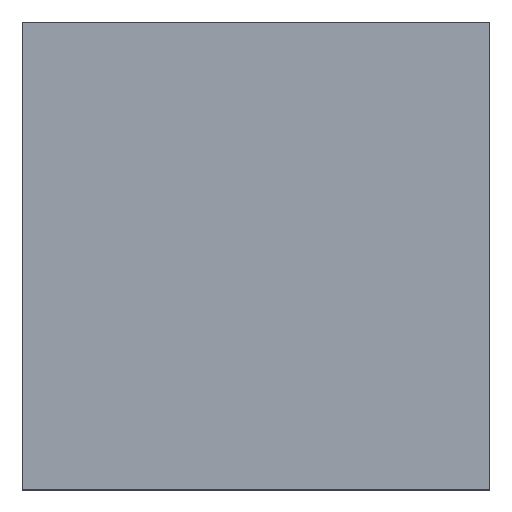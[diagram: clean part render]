
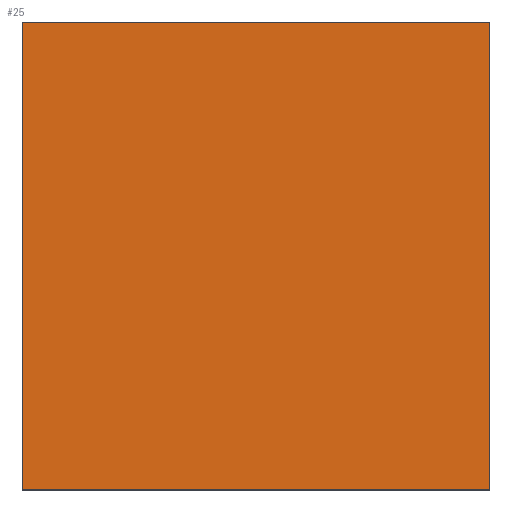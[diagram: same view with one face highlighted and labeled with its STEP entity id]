
A CAD part, top view. The second image highlights one B-rep face of the part: STEP entity #25.
In plain terms, the highlighted planar face has unit normal (0, 0, 1).
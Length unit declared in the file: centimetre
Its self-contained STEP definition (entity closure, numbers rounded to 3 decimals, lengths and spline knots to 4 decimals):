
#4 = CARTESIAN_POINT ( 'NONE',  ( 0., 1000., 1000. ) ) ;
#6 = CARTESIAN_POINT ( 'NONE',  ( 0., 0., 1000. ) ) ;
#13 = CARTESIAN_POINT ( 'NONE',  ( 1000., 1000., 1000. ) ) ;
#17 = LINE ( 'NONE', #13, #346 ) ;
#25 = ADVANCED_FACE ( 'NONE', ( #244 ), #164, .T. ) ;
#28 = VECTOR ( 'NONE', #319, 100. ) ;
#37 = DIRECTION ( 'NONE',  ( 0., 0., 1. ) ) ;
#40 = LINE ( 'NONE', #4, #395 ) ;
#56 = EDGE_LOOP ( 'NONE', ( #366, #107, #223, #461 ) ) ;
#75 = VERTEX_POINT ( 'NONE', #308 ) ;
#86 = EDGE_CURVE ( 'NONE', #179, #75, #471, .T. ) ;
#94 = CARTESIAN_POINT ( 'NONE',  ( 0., 0., 1000. ) ) ;
#107 = ORIENTED_EDGE ( 'NONE', *, *, #86, .T. ) ;
#110 = VERTEX_POINT ( 'NONE', #307 ) ;
#123 = DIRECTION ( 'NONE',  ( 1., 0., 0. ) ) ;
#124 = EDGE_CURVE ( 'NONE', #186, #179, #40, .T. ) ;
#155 = CARTESIAN_POINT ( 'NONE',  ( 0., 0., 1000. ) ) ;
#164 = PLANE ( 'NONE',  #423 ) ;
#165 = CARTESIAN_POINT ( 'NONE',  ( 0., 1000., 1000. ) ) ;
#172 = DIRECTION ( 'NONE',  ( 0., 1., 0. ) ) ;
#179 = VERTEX_POINT ( 'NONE', #94 ) ;
#186 = VERTEX_POINT ( 'NONE', #334 ) ;
#223 = ORIENTED_EDGE ( 'NONE', *, *, #487, .T. ) ;
#235 = DIRECTION ( 'NONE',  ( 0., -1., 0. ) ) ;
#244 = FACE_OUTER_BOUND ( 'NONE', #56, .T. ) ;
#271 = DIRECTION ( 'NONE',  ( 1., 0., 0. ) ) ;
#283 = EDGE_CURVE ( 'NONE', #110, #186, #429, .T. ) ;
#307 = CARTESIAN_POINT ( 'NONE',  ( 1000., 1000., 1000. ) ) ;
#308 = CARTESIAN_POINT ( 'NONE',  ( 1000., 0., 1000. ) ) ;
#319 = DIRECTION ( 'NONE',  ( -1., 0., 0. ) ) ;
#334 = CARTESIAN_POINT ( 'NONE',  ( 0., 1000., 1000. ) ) ;
#346 = VECTOR ( 'NONE', #172, 100. ) ;
#364 = VECTOR ( 'NONE', #123, 100. ) ;
#366 = ORIENTED_EDGE ( 'NONE', *, *, #124, .T. ) ;
#395 = VECTOR ( 'NONE', #235, 100. ) ;
#423 = AXIS2_PLACEMENT_3D ( 'NONE', #6, #37, #271 ) ;
#429 = LINE ( 'NONE', #165, #28 ) ;
#461 = ORIENTED_EDGE ( 'NONE', *, *, #283, .T. ) ;
#471 = LINE ( 'NONE', #155, #364 ) ;
#487 = EDGE_CURVE ( 'NONE', #75, #110, #17, .T. ) ;
